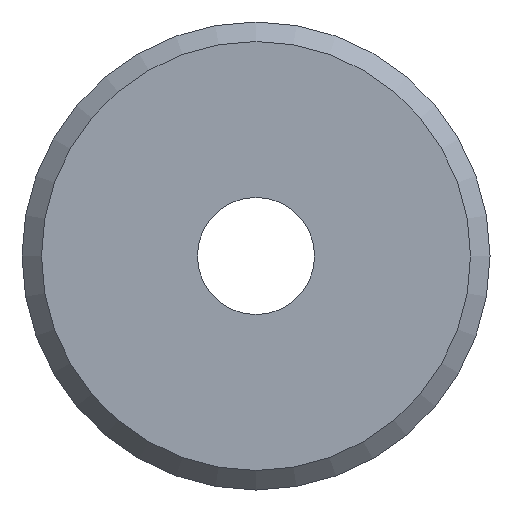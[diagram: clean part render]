
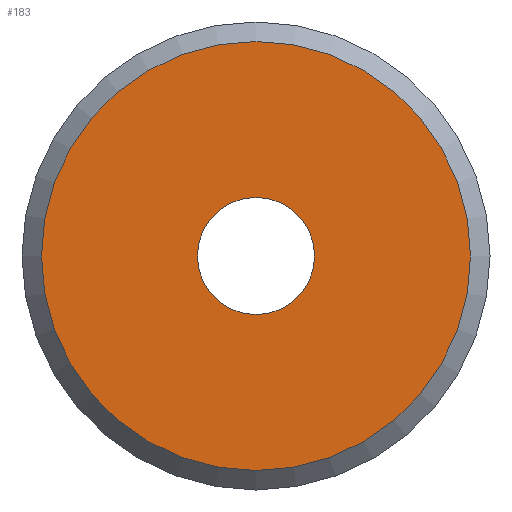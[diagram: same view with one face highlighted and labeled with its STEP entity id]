
A CAD part, front view. The second image highlights one B-rep face of the part: STEP entity #183.
In plain terms, the highlighted planar face has unit normal (0, -1, 0).
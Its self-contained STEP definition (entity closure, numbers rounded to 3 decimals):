
#141=CARTESIAN_POINT('',(-5.5,0.,0.));
#142=VERTEX_POINT('',#141);
#143=CARTESIAN_POINT('',(0.0,0.,0.0));
#144=DIRECTION('',(0.0,1.0,0.0));
#145=DIRECTION('',(1.0,0.0,0.0));
#146=AXIS2_PLACEMENT_3D('',#143,#144,#145);
#147=CIRCLE('',#146,5.5);
#148=EDGE_CURVE('',#142,#142,#147,.T.);
#164=CARTESIAN_POINT('',(-3.75,0.,0.0));
#165=DIRECTION('',(0.0,-1.0,0.0));
#166=DIRECTION('',(0.0,0.0,-1.0));
#167=AXIS2_PLACEMENT_3D('',#164,#165,#166);
#168=PLANE('',#167);
#169=ORIENTED_EDGE('',*,*,#148,.F.);
#170=EDGE_LOOP('',(#169));
#171=FACE_OUTER_BOUND('',#170,.T.);
#172=CARTESIAN_POINT('',(-1.5,0.,0.0));
#173=VERTEX_POINT('',#172);
#174=CARTESIAN_POINT('',(0.0,0.,0.0));
#175=DIRECTION('',(0.0,1.0,0.0));
#176=DIRECTION('',(-1.0,0.0,0.0));
#177=AXIS2_PLACEMENT_3D('',#174,#175,#176);
#178=CIRCLE('',#177,1.5);
#179=EDGE_CURVE('',#173,#173,#178,.T.);
#180=ORIENTED_EDGE('',*,*,#179,.T.);
#181=EDGE_LOOP('',(#180));
#182=FACE_BOUND('',#181,.T.);
#183=ADVANCED_FACE('',(#171,#182),#168,.T.);
